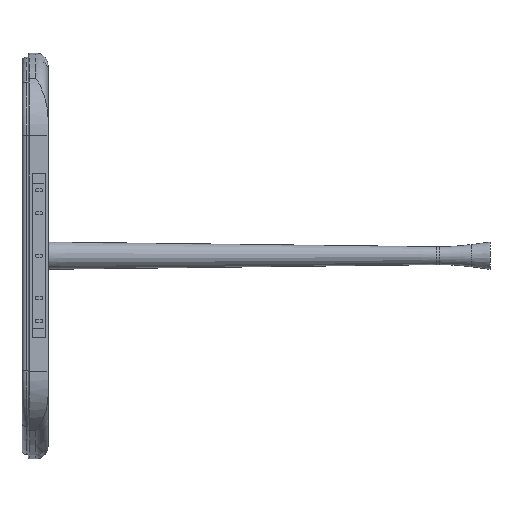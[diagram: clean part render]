
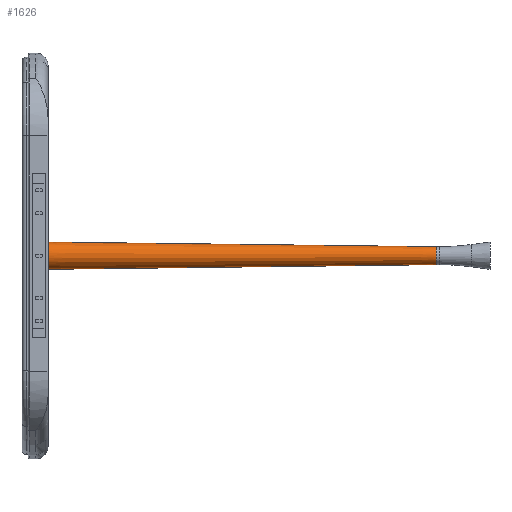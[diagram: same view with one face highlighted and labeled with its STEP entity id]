
A CAD part, left-side view. The second image highlights one B-rep face of the part: STEP entity #1626.
In plain terms, the highlighted conical face has half-angle 0.684 degrees and reference radius 14.846 mm.
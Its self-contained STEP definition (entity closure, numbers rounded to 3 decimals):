
#54 = VERTEX_POINT ( 'NONE', #2033 ) ;
#435 = CIRCLE ( 'NONE', #4270, 22.5 ) ;
#550 = EDGE_CURVE ( 'NONE', #5131, #4636, #4791, .T. ) ;
#718 = AXIS2_PLACEMENT_3D ( 'NONE', #2715, #5460, #3349 ) ;
#930 = CARTESIAN_POINT ( 'NONE',  ( 0., 730., -22.5 ) ) ;
#948 = CARTESIAN_POINT ( 'NONE',  ( 0., 88.947, 14.846 ) ) ;
#1080 = VECTOR ( 'NONE', #4135, 1000. ) ;
#1173 = CARTESIAN_POINT ( 'NONE',  ( 0., 88.947, -14.846 ) ) ;
#1216 = ORIENTED_EDGE ( 'NONE', *, *, #550, .F. ) ;
#1239 = AXIS2_PLACEMENT_3D ( 'NONE', #5406, #1950, #3016 ) ;
#1626 = ADVANCED_FACE ( 'NONE', ( #1748 ), #5250, .T. ) ;
#1643 = LINE ( 'NONE', #3424, #2503 ) ;
#1660 = EDGE_LOOP ( 'NONE', ( #4994, #1216, #2991, #2376 ) ) ;
#1748 = FACE_OUTER_BOUND ( 'NONE', #1660, .T. ) ;
#1950 = DIRECTION ( 'NONE',  ( 0., -1., 0. ) ) ;
#2033 = CARTESIAN_POINT ( 'NONE',  ( 0., 730., 22.5 ) ) ;
#2376 = ORIENTED_EDGE ( 'NONE', *, *, #4975, .T. ) ;
#2433 = DIRECTION ( 'NONE',  ( 0., 1., 0.012 ) ) ;
#2456 = DIRECTION ( 'NONE',  ( 0., -1., 0. ) ) ;
#2503 = VECTOR ( 'NONE', #2433, 1000. ) ;
#2715 = CARTESIAN_POINT ( 'NONE',  ( 0., 88.947, 0. ) ) ;
#2979 = VERTEX_POINT ( 'NONE', #930 ) ;
#2991 = ORIENTED_EDGE ( 'NONE', *, *, #3970, .T. ) ;
#3016 = DIRECTION ( 'NONE',  ( 0., 0., -1. ) ) ;
#3077 = CARTESIAN_POINT ( 'NONE',  ( 0., 730., 0. ) ) ;
#3349 = DIRECTION ( 'NONE',  ( 0., 0., 1. ) ) ;
#3424 = CARTESIAN_POINT ( 'NONE',  ( 0., 88.947, 14.846 ) ) ;
#3970 = EDGE_CURVE ( 'NONE', #5131, #54, #1643, .T. ) ;
#4070 = DIRECTION ( 'NONE',  ( 0., 0., -1. ) ) ;
#4135 = DIRECTION ( 'NONE',  ( 0., 1., -0.012 ) ) ;
#4270 = AXIS2_PLACEMENT_3D ( 'NONE', #3077, #2456, #4070 ) ;
#4469 = EDGE_CURVE ( 'NONE', #4636, #2979, #5019, .T. ) ;
#4636 = VERTEX_POINT ( 'NONE', #4930 ) ;
#4791 = CIRCLE ( 'NONE', #1239, 14.846 ) ;
#4930 = CARTESIAN_POINT ( 'NONE',  ( 0., 88.947, -14.846 ) ) ;
#4975 = EDGE_CURVE ( 'NONE', #54, #2979, #435, .T. ) ;
#4994 = ORIENTED_EDGE ( 'NONE', *, *, #4469, .F. ) ;
#5019 = LINE ( 'NONE', #1173, #1080 ) ;
#5131 = VERTEX_POINT ( 'NONE', #948 ) ;
#5250 = CONICAL_SURFACE ( 'NONE', #718, 14.846, 0.012 ) ;
#5406 = CARTESIAN_POINT ( 'NONE',  ( 0., 88.947, 0. ) ) ;
#5460 = DIRECTION ( 'NONE',  ( 0., 1., 0. ) ) ;
